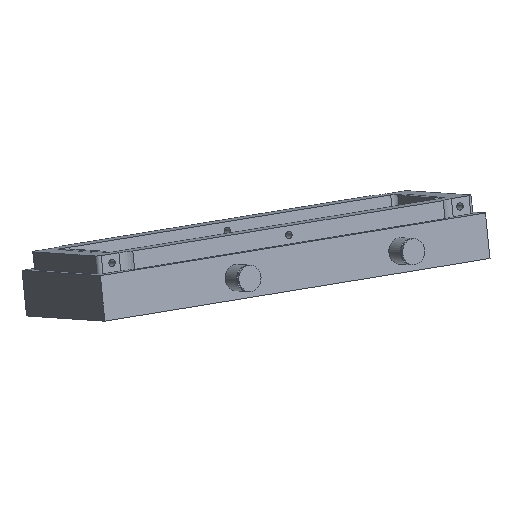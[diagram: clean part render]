
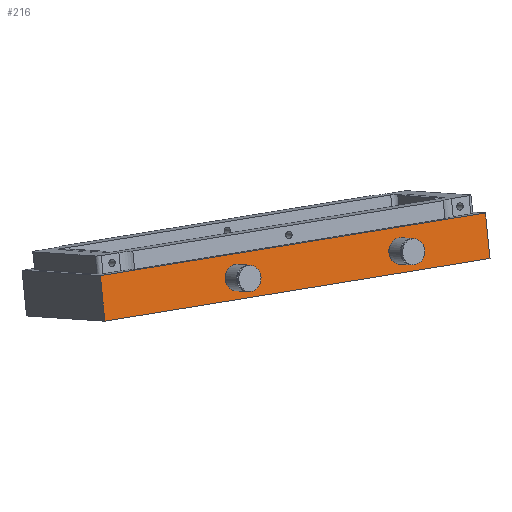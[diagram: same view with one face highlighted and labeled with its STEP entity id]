
A CAD part, front view. The second image highlights one B-rep face of the part: STEP entity #216.
In plain terms, the highlighted planar face has unit normal (0.523, -0.852, -0.035).
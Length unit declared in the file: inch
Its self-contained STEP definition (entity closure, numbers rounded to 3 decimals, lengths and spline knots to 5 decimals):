
#91=CARTESIAN_POINT('',(3.18946,0.76452,0.39423));
#92=VERTEX_POINT('',#91);
#99=CARTESIAN_POINT('',(-2.0391,-2.40854,-0.45693));
#100=VERTEX_POINT('',#99);
#101=CARTESIAN_POINT('',(-2.0391,-2.40854,-0.45693));
#102=DIRECTION('',(0.847,0.514,0.138));
#103=VECTOR('',#102,6.175);
#104=LINE('',#101,#103);
#105=EDGE_CURVE('',#100,#92,#104,.T.);
#186=CARTESIAN_POINT('',(-2.12601,-2.49765,0.40917));
#187=DIRECTION('',(0.523,-0.852,-0.035));
#188=DIRECTION('',(0.099,0.102,-0.99));
#189=AXIS2_PLACEMENT_3D('',#186,#187,#188);
#190=PLANE('',#189);
#191=CARTESIAN_POINT('',(3.12738,0.70087,1.01288));
#192=VERTEX_POINT('',#191);
#193=CARTESIAN_POINT('',(-2.10118,-2.47219,0.16171));
#194=VERTEX_POINT('',#193);
#195=CARTESIAN_POINT('',(3.12738,0.70087,1.01288));
#196=DIRECTION('',(-0.847,-0.514,-0.138));
#197=VECTOR('',#196,6.175);
#198=LINE('',#195,#197);
#199=EDGE_CURVE('',#192,#194,#198,.T.);
#200=ORIENTED_EDGE('',*,*,#199,.T.);
#201=CARTESIAN_POINT('',(-2.10118,-2.47219,0.16171));
#202=DIRECTION('',(0.099,0.102,-0.99));
#203=VECTOR('',#202,0.625);
#204=LINE('',#201,#203);
#205=EDGE_CURVE('',#194,#100,#204,.T.);
#206=ORIENTED_EDGE('',*,*,#205,.T.);
#207=ORIENTED_EDGE('',*,*,#105,.T.);
#208=CARTESIAN_POINT('',(3.12738,0.70087,1.01288));
#209=DIRECTION('',(0.099,0.102,-0.99));
#210=VECTOR('',#209,0.625);
#211=LINE('',#208,#210);
#212=EDGE_CURVE('',#192,#92,#211,.T.);
#213=ORIENTED_EDGE('',*,*,#212,.F.);
#214=EDGE_LOOP('',(#200,#206,#207,#213));
#215=FACE_OUTER_BOUND('',#214,.T.);
#216=ADVANCED_FACE('',(#215),#190,.T.);
